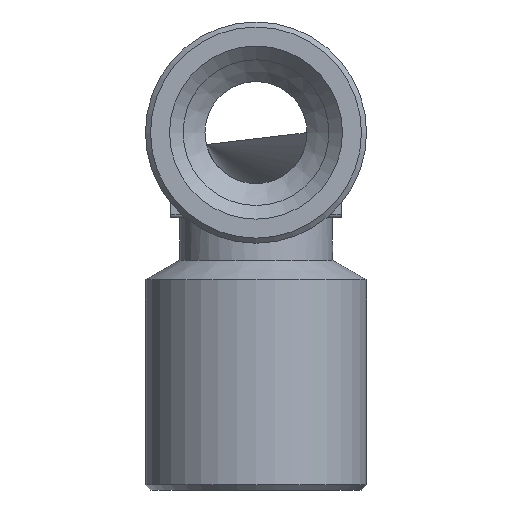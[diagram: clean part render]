
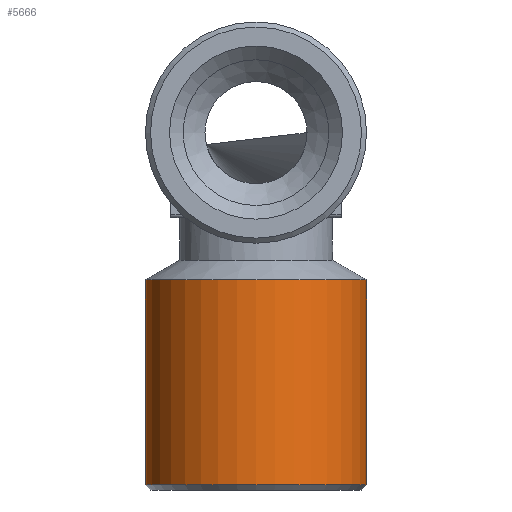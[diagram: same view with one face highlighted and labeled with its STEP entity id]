
A CAD part, left-side view. The second image highlights one B-rep face of the part: STEP entity #5666.
In plain terms, the highlighted cylindrical face has radius 6.5 mm (diameter 13 mm), a full revolution.
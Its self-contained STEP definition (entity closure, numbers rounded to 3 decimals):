
#1446=CYLINDRICAL_SURFACE('',#5537,6.5);
#1488=ORIENTED_EDGE('',*,*,#1882,.F.);
#1489=ORIENTED_EDGE('',*,*,#1883,.T.);
#1742=CIRCLE('',#5536,6.5);
#1743=CIRCLE('',#5538,6.5);
#1788=VERTEX_POINT('',#2466);
#1789=VERTEX_POINT('',#2469);
#1882=EDGE_CURVE('',#1788,#1788,#1742,.T.);
#1883=EDGE_CURVE('',#1789,#1789,#1743,.T.);
#2012=EDGE_LOOP('',(#1488));
#2013=EDGE_LOOP('',(#1489));
#2098=FACE_BOUND('',#2012,.T.);
#2099=FACE_BOUND('',#2013,.T.);
#2188=DIRECTION('',(0.,-1.,0.));
#2189=DIRECTION('',(0.,0.,6.5));
#2190=DIRECTION('',(0.,1.,0.));
#2191=DIRECTION('',(1.,0.,0.));
#2192=DIRECTION('',(0.,-1.,0.));
#2193=DIRECTION('',(0.,0.,6.5));
#2466=CARTESIAN_POINT('',(34.317,13.947,6.5));
#2467=CARTESIAN_POINT('',(34.317,13.947,0.));
#2468=CARTESIAN_POINT('',(34.317,13.947,0.));
#2469=CARTESIAN_POINT('',(34.317,25.992,6.5));
#2470=CARTESIAN_POINT('',(34.317,25.992,0.));
#5536=AXIS2_PLACEMENT_3D('',#2467,#2188,#2189);
#5537=AXIS2_PLACEMENT_3D('',#2468,#2190,#2191);
#5538=AXIS2_PLACEMENT_3D('',#2470,#2192,#2193);
#5666=ADVANCED_FACE('',(#2098,#2099),#1446,.T.);
